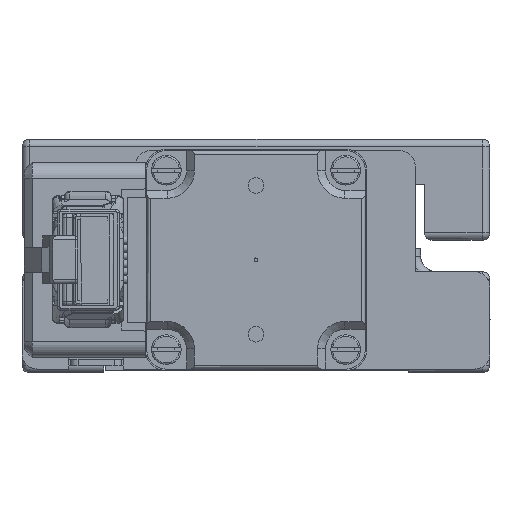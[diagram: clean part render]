
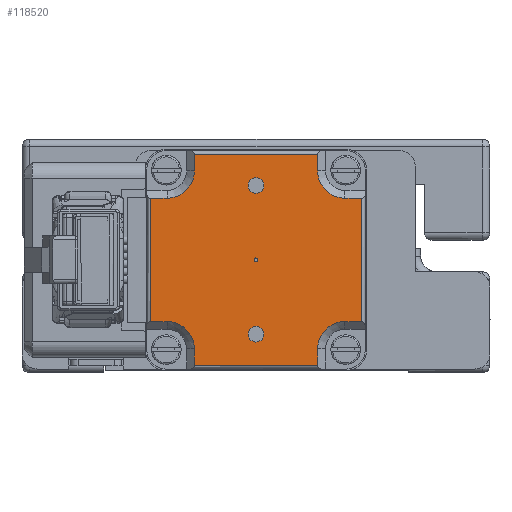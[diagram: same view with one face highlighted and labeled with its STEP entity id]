
A CAD part, front view. The second image highlights one B-rep face of the part: STEP entity #118520.
In plain terms, the highlighted planar face has unit normal (0, -1, 0) as drawn and (0, 0, -1) by its records, which use the part's own axes.
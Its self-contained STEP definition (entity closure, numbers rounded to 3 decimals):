
#15474=LINE('',#259483,#28607);
#15475=LINE('',#259485,#28608);
#15479=LINE('',#259493,#28612);
#15480=LINE('',#259497,#28613);
#15481=LINE('',#259499,#28614);
#15482=LINE('',#259501,#28615);
#15483=LINE('',#259505,#28616);
#15484=LINE('',#259507,#28617);
#15485=LINE('',#259509,#28618);
#15486=LINE('',#259513,#28619);
#15487=LINE('',#259515,#28620);
#15488=LINE('',#259517,#28621);
#28607=VECTOR('',#186344,1000.);
#28608=VECTOR('',#186347,1000.);
#28612=VECTOR('',#186353,1000.);
#28613=VECTOR('',#186356,1000.);
#28614=VECTOR('',#186357,1000.);
#28615=VECTOR('',#186358,1000.);
#28616=VECTOR('',#186361,1000.);
#28617=VECTOR('',#186362,1000.);
#28618=VECTOR('',#186363,1000.);
#28619=VECTOR('',#186366,1000.);
#28620=VECTOR('',#186367,1000.);
#28621=VECTOR('',#186368,1000.);
#32984=PLANE('',#157413);
#66713=ORIENTED_EDGE('',*,*,#83836,.T.);
#66714=ORIENTED_EDGE('',*,*,#83835,.T.);
#66715=ORIENTED_EDGE('',*,*,#83834,.T.);
#66716=ORIENTED_EDGE('',*,*,#83840,.F.);
#66717=ORIENTED_EDGE('',*,*,#83845,.F.);
#66718=ORIENTED_EDGE('',*,*,#83846,.F.);
#66719=ORIENTED_EDGE('',*,*,#83847,.F.);
#66720=ORIENTED_EDGE('',*,*,#83848,.F.);
#66721=ORIENTED_EDGE('',*,*,#83849,.F.);
#66722=ORIENTED_EDGE('',*,*,#83850,.F.);
#66723=ORIENTED_EDGE('',*,*,#83851,.F.);
#66724=ORIENTED_EDGE('',*,*,#83852,.F.);
#66725=ORIENTED_EDGE('',*,*,#83853,.F.);
#66726=ORIENTED_EDGE('',*,*,#83854,.F.);
#66727=ORIENTED_EDGE('',*,*,#83855,.F.);
#66728=ORIENTED_EDGE('',*,*,#83856,.F.);
#66729=ORIENTED_EDGE('',*,*,#83857,.F.);
#66730=ORIENTED_EDGE('',*,*,#83858,.F.);
#66731=ORIENTED_EDGE('',*,*,#83841,.F.);
#83834=EDGE_CURVE('',#95185,#95185,#97439,.T.);
#83835=EDGE_CURVE('',#95186,#95186,#97440,.T.);
#83836=EDGE_CURVE('',#95187,#95187,#97441,.T.);
#83840=EDGE_CURVE('',#95191,#95188,#15474,.T.);
#83841=EDGE_CURVE('',#95188,#95192,#15475,.T.);
#83845=EDGE_CURVE('',#95195,#95191,#15479,.T.);
#83846=EDGE_CURVE('',#95196,#95195,#97442,.T.);
#83847=EDGE_CURVE('',#95197,#95196,#15480,.T.);
#83848=EDGE_CURVE('',#95198,#95197,#15481,.T.);
#83849=EDGE_CURVE('',#95199,#95198,#15482,.T.);
#83850=EDGE_CURVE('',#95200,#95199,#97443,.T.);
#83851=EDGE_CURVE('',#95201,#95200,#15483,.T.);
#83852=EDGE_CURVE('',#95202,#95201,#15484,.T.);
#83853=EDGE_CURVE('',#95203,#95202,#15485,.T.);
#83854=EDGE_CURVE('',#95204,#95203,#97444,.T.);
#83855=EDGE_CURVE('',#95205,#95204,#15486,.T.);
#83856=EDGE_CURVE('',#95206,#95205,#15487,.T.);
#83857=EDGE_CURVE('',#95207,#95206,#15488,.T.);
#83858=EDGE_CURVE('',#95192,#95207,#97445,.T.);
#95185=VERTEX_POINT('',#259468);
#95186=VERTEX_POINT('',#259471);
#95187=VERTEX_POINT('',#259474);
#95188=VERTEX_POINT('',#259477);
#95191=VERTEX_POINT('',#259482);
#95192=VERTEX_POINT('',#259486);
#95195=VERTEX_POINT('',#259494);
#95196=VERTEX_POINT('',#259496);
#95197=VERTEX_POINT('',#259498);
#95198=VERTEX_POINT('',#259500);
#95199=VERTEX_POINT('',#259502);
#95200=VERTEX_POINT('',#259504);
#95201=VERTEX_POINT('',#259506);
#95202=VERTEX_POINT('',#259508);
#95203=VERTEX_POINT('',#259510);
#95204=VERTEX_POINT('',#259512);
#95205=VERTEX_POINT('',#259514);
#95206=VERTEX_POINT('',#259516);
#95207=VERTEX_POINT('',#259518);
#97439=CIRCLE('',#157404,1.007);
#97440=CIRCLE('',#157406,1.007);
#97441=CIRCLE('',#157408,0.25);
#97442=CIRCLE('',#157414,3.5);
#97443=CIRCLE('',#157415,3.5);
#97444=CIRCLE('',#157416,3.5);
#97445=CIRCLE('',#157417,3.5);
#104310=EDGE_LOOP('',(#66713));
#104311=EDGE_LOOP('',(#66714));
#104312=EDGE_LOOP('',(#66715));
#104313=EDGE_LOOP('',(#66716,#66717,#66718,#66719,#66720,#66721,#66722,
#66723,#66724,#66725,#66726,#66727,#66728,#66729,#66730,#66731));
#111228=FACE_BOUND('',#104310,.T.);
#111229=FACE_BOUND('',#104311,.T.);
#111230=FACE_BOUND('',#104312,.T.);
#111231=FACE_BOUND('',#104313,.T.);
#118520=ADVANCED_FACE('',(#111228,#111229,#111230,#111231),#32984,.T.);
#157404=AXIS2_PLACEMENT_3D('',#259467,#186327,#186328);
#157406=AXIS2_PLACEMENT_3D('',#259470,#186331,#186332);
#157408=AXIS2_PLACEMENT_3D('',#259473,#186335,#186336);
#157413=AXIS2_PLACEMENT_3D('',#259492,#186351,#186352);
#157414=AXIS2_PLACEMENT_3D('',#259495,#186354,#186355);
#157415=AXIS2_PLACEMENT_3D('',#259503,#186359,#186360);
#157416=AXIS2_PLACEMENT_3D('',#259511,#186364,#186365);
#157417=AXIS2_PLACEMENT_3D('',#259519,#186369,#186370);
#186327=DIRECTION('',(0.,0.,1.));
#186328=DIRECTION('',(1.,0.,0.));
#186331=DIRECTION('',(0.,0.,1.));
#186332=DIRECTION('',(1.,0.,0.));
#186335=DIRECTION('',(0.,0.,1.));
#186336=DIRECTION('',(-1.,0.,0.));
#186344=DIRECTION('',(-1.,0.,0.));
#186347=DIRECTION('',(0.,-1.,0.));
#186351=DIRECTION('',(0.,0.,-1.));
#186352=DIRECTION('',(1.,0.,0.));
#186353=DIRECTION('',(0.,1.,0.));
#186354=DIRECTION('',(0.,0.,-1.));
#186355=DIRECTION('',(-1.,0.,0.));
#186356=DIRECTION('',(-1.,0.,0.));
#186357=DIRECTION('',(0.,1.,0.));
#186358=DIRECTION('',(1.,0.,0.));
#186359=DIRECTION('',(0.,0.,-1.));
#186360=DIRECTION('',(-1.,0.,0.));
#186361=DIRECTION('',(0.,1.,0.));
#186362=DIRECTION('',(1.,0.,0.));
#186363=DIRECTION('',(0.,-1.,0.));
#186364=DIRECTION('',(0.,0.,-1.));
#186365=DIRECTION('',(1.,0.,0.));
#186366=DIRECTION('',(1.,0.,0.));
#186367=DIRECTION('',(0.,-1.,0.));
#186368=DIRECTION('',(-1.,0.,0.));
#186369=DIRECTION('',(0.,0.,-1.));
#186370=DIRECTION('',(1.,0.,0.));
#259467=CARTESIAN_POINT('',(-9.525,0.,-26.));
#259468=CARTESIAN_POINT('',(-8.519,0.,-26.));
#259470=CARTESIAN_POINT('',(9.525,0.,-26.));
#259471=CARTESIAN_POINT('',(10.532,0.,-26.));
#259473=CARTESIAN_POINT('',(0.,0.,-26.));
#259474=CARTESIAN_POINT('',(-0.25,0.,-26.));
#259477=CARTESIAN_POINT('',(-7.9,13.5,-26.));
#259482=CARTESIAN_POINT('',(7.9,13.5,-26.));
#259483=CARTESIAN_POINT('',(7.9,13.5,-26.));
#259485=CARTESIAN_POINT('',(-7.9,13.5,-26.));
#259486=CARTESIAN_POINT('',(-7.9,11.4,-26.));
#259492=CARTESIAN_POINT('',(0.,0.,-26.));
#259493=CARTESIAN_POINT('',(7.9,11.4,-26.));
#259494=CARTESIAN_POINT('',(7.9,11.4,-26.));
#259495=CARTESIAN_POINT('',(11.4,11.4,-26.));
#259496=CARTESIAN_POINT('',(11.4,7.9,-26.));
#259497=CARTESIAN_POINT('',(13.5,7.9,-26.));
#259498=CARTESIAN_POINT('',(13.5,7.9,-26.));
#259499=CARTESIAN_POINT('',(13.5,-7.9,-26.));
#259500=CARTESIAN_POINT('',(13.5,-7.9,-26.));
#259501=CARTESIAN_POINT('',(11.4,-7.9,-26.));
#259502=CARTESIAN_POINT('',(11.4,-7.9,-26.));
#259503=CARTESIAN_POINT('',(11.4,-11.4,-26.));
#259504=CARTESIAN_POINT('',(7.9,-11.4,-26.));
#259505=CARTESIAN_POINT('',(7.9,-13.5,-26.));
#259506=CARTESIAN_POINT('',(7.9,-13.5,-26.));
#259507=CARTESIAN_POINT('',(-7.9,-13.5,-26.));
#259508=CARTESIAN_POINT('',(-7.9,-13.5,-26.));
#259509=CARTESIAN_POINT('',(-7.9,-11.4,-26.));
#259510=CARTESIAN_POINT('',(-7.9,-11.4,-26.));
#259511=CARTESIAN_POINT('',(-11.4,-11.4,-26.));
#259512=CARTESIAN_POINT('',(-11.4,-7.9,-26.));
#259513=CARTESIAN_POINT('',(-13.5,-7.9,-26.));
#259514=CARTESIAN_POINT('',(-13.5,-7.9,-26.));
#259515=CARTESIAN_POINT('',(-13.5,7.9,-26.));
#259516=CARTESIAN_POINT('',(-13.5,7.9,-26.));
#259517=CARTESIAN_POINT('',(-11.4,7.9,-26.));
#259518=CARTESIAN_POINT('',(-11.4,7.9,-26.));
#259519=CARTESIAN_POINT('',(-11.4,11.4,-26.));
